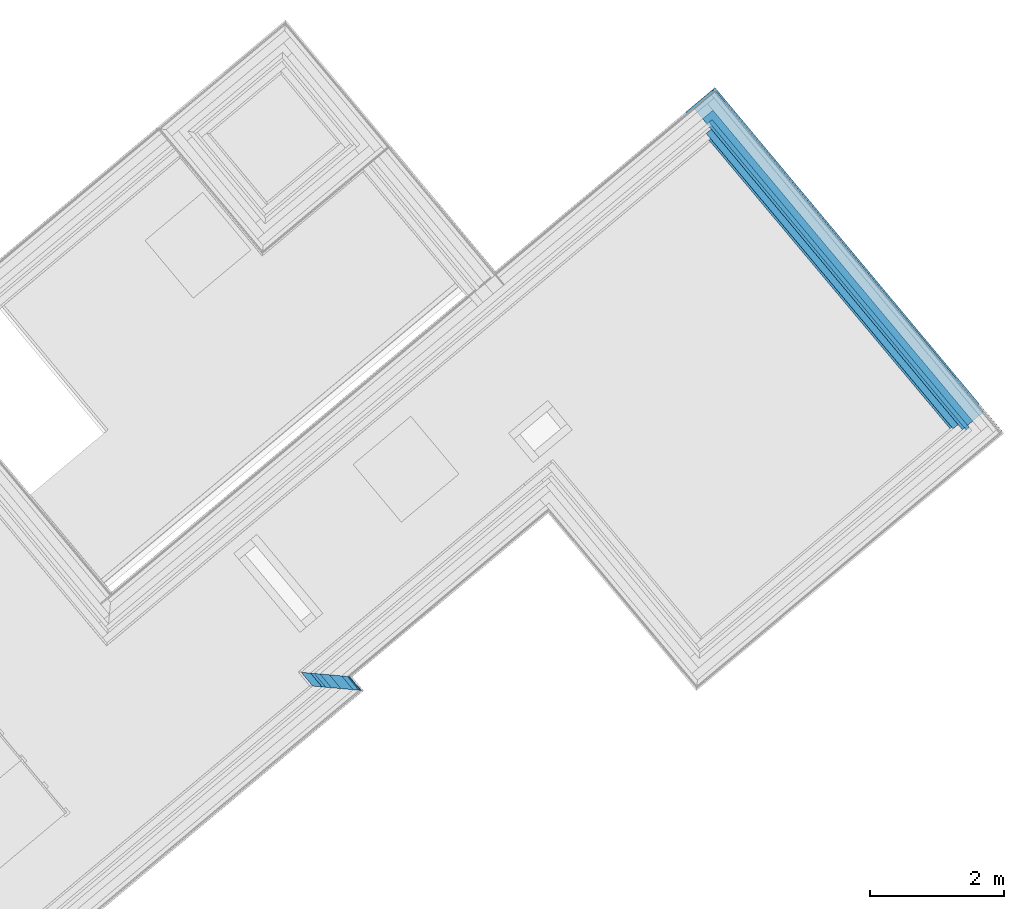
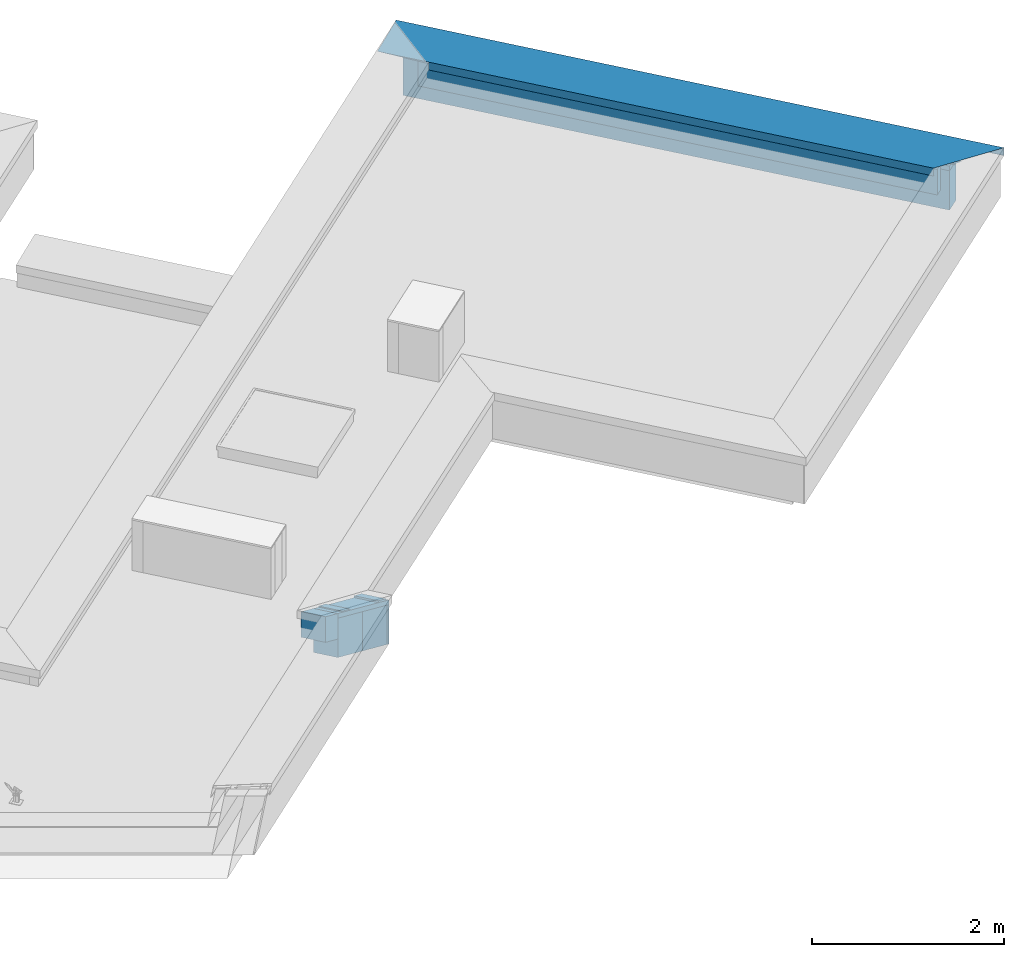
# One storey, part 14 of 15: 13 building element parts, 2 elements without a shape of their own.
"""IFC4 building model written with IfcOpenShell, lengths in metres."""

from ifc_helpers import new_model, entity, si_unit, converted_unit, derived_unit, direction, frame, origin_with_axes, place, context, subcontext, project, spatial, polygons, material, type_object, element, aggregate, save


model = new_model("IFC4")

# Units and contexts
model_context = context("Model", 3, precision=1e-05, world=origin_with_axes(), true_north=direction((0.0, 1.0)))
body_context = subcontext(model_context, "Body", "Model", "MODEL_VIEW")
ifc_project = project(units=[si_unit("LENGTHUNIT", "METRE"), si_unit("AREAUNIT", "SQUARE_METRE"), si_unit("VOLUMEUNIT", "CUBIC_METRE"), converted_unit("PLANEANGLEUNIT", "DEGREE", entity("IfcPlaneAngleMeasure", 0.0174532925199), si_unit("PLANEANGLEUNIT", "RADIAN"), dimensions=[0, 0, 0, 0, 0, 0, 0]), converted_unit("TIMEUNIT", "Year", entity("IfcTimeMeasure", 31556926.0), si_unit("TIMEUNIT", "SECOND"), dimensions=[0, 0, 1, 0, 0, 0, 0]), si_unit("MASSUNIT", "GRAM", prefix="KILO"), si_unit("THERMODYNAMICTEMPERATUREUNIT", "DEGREE_CELSIUS"), si_unit("LUMINOUSINTENSITYUNIT", "LUMEN"), si_unit("ENERGYUNIT", "JOULE", prefix="MEGA"), derived_unit("THERMALCONDUCTANCEUNIT", [(si_unit("POWERUNIT", "WATT"), 1), (si_unit("LENGTHUNIT", "METRE"), -1), (si_unit("THERMODYNAMICTEMPERATUREUNIT", "KELVIN"), -1)]), derived_unit("SPECIFICHEATCAPACITYUNIT", [(si_unit("ENERGYUNIT", "JOULE"), 1), (si_unit("MASSUNIT", "GRAM", prefix="KILO"), -1), (si_unit("THERMODYNAMICTEMPERATUREUNIT", "KELVIN"), -1)]), derived_unit("MASSDENSITYUNIT", [(si_unit("MASSUNIT", "GRAM", prefix="KILO"), 1), (si_unit("VOLUMEUNIT", "CUBIC_METRE"), -1)])], contexts=[model_context])

# Site, building, storey
site_placement = place(None, frame((-0.00153261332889, -0.00661245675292, 0.0), z_axis=(0.0, 0.0, 1.0), x_axis=(1.0, 0.0, 0.0)))
site = spatial("IfcSite", under=ifc_project, at=site_placement, Name="Site", CompositionType="ELEMENT")
building_placement = place(site_placement, origin_with_axes())
building = spatial("IfcBuilding", under=site, at=building_placement, Name="Building", CompositionType="ELEMENT")
storey_placement = place(building_placement, frame((0.0, 0.0, 11.84), z_axis=(0.0, 0.0, 1.0), x_axis=(1.0, 0.0, 0.0)))
storey = spatial("IfcBuildingStorey", under=building, at=storey_placement, Name="DA", CompositionType="ELEMENT", Elevation=11.84)

# Wall, building element parts
wall_type = type_object("IfcWallType", Name="Individuelles Profil 574 x 610", PredefinedType="NOTDEFINED")
wall_1_placement = place(storey_placement, frame((2.48571839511, 17.6952214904, 0.0), z_axis=(0.0, 0.0, 1.0), x_axis=(-0.640621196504, 0.76785707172, 0.0)))
wall_1 = element("IfcWall", 1, at=wall_1_placement, inside=storey, type_object=wall_type, Name="Wand-004", PredefinedType="NOTDEFINED")
ifc_material_1 = material(Name="EPS 1")
building_element_part_1_placement = place(wall_1_placement, origin_with_axes())
building_element_part_1 = element("IfcBuildingElementPart", 2, at=building_element_part_1_placement, material=ifc_material_1, Name="EPS 1", PredefinedType="NOTDEFINED", context=body_context, shape_type="Tessellation", body=[
    polygons([(0.568969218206, 0.300000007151, 0.23500000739), (0.299575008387, 0.300000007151, 0.23500000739), (0.299575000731, 0.30000000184, 0.560000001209), (0.568969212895, 0.30000000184, 0.560000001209), (0.468969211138, 0.200000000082, 0.23500000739), (0.19971666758, 0.200000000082, 0.23500000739), (0.19971666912, 0.200000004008, 0.560000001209), (0.468969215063, 0.200000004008, 0.560000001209)], [[[1, 2, 3, 4]], [[2, 1, 5, 6]], [[7, 3, 2, 6]], [[8, 4, 3, 7]], [[4, 8, 5, 1]], [[5, 8, 7, 6]]], closed=True),
])
ifc_material_2 = material(Name="Vollholz")
building_element_part_2_placement = place(wall_1_placement, origin_with_axes())
building_element_part_2 = element("IfcBuildingElementPart", 3, at=building_element_part_2_placement, material=ifc_material_2, Name="Vollholz", PredefinedType="NOTDEFINED", context=body_context, shape_type="Tessellation", body=[
    polygons([(0.368969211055, 0.1, 0.560000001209), (0.368969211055, 0.1, 0.575979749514), (0.0998583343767, 0.1, 0.575979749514), (0.0998583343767, 0.1, 0.560000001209), (0.429079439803, 0.160110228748, 0.573880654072), (0.428969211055, 0.16, 0.560000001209), (0.159883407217, 0.160110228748, 0.573880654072), (0.159773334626, 0.16, 0.560000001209)], [[[1, 2, 3, 4]], [[5, 2, 1, 6]], [[2, 5, 7, 3]], [[4, 3, 7, 8]], [[6, 1, 4, 8]], [[5, 6, 8, 7]]], closed=True),
])
ifc_material_3 = material(Name="Stahlbeton Wand Garage")
building_element_part_3_placement = place(wall_1_placement, origin_with_axes())
building_element_part_3 = element("IfcBuildingElementPart", 4, at=building_element_part_3_placement, material=ifc_material_3, Name="Stahlbeton Wand Garage", PredefinedType="NOTDEFINED", context=body_context, shape_type="Tessellation", body=[
    polygons([(0.268969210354, -7.0115113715e-10, 0.0), (0.268969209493, -1.56214596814e-09, 0.500000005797), (-1.90311411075e-09, -2.53464271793e-09, 0.500000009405), (-7.83380471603e-10, -1.08753894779e-09, 0.0), (0.468969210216, 0.199999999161, 0.500000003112), (0.468969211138, 0.200000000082, 0.0), (0.468969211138, 0.200000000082, 0.23500000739), (0.199716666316, 0.199999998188, 0.500000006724), (0.19971666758, 0.200000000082, 0.0), (0.19971666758, 0.200000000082, 0.23500000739)], [[[1, 2, 3, 4]], [[5, 2, 1, 6, 7]], [[2, 5, 8, 3]], [[9, 4, 3, 8, 10]], [[6, 1, 4, 9]], [[7, 6, 9, 10]], [[5, 7, 10, 8]]], closed=True),
])
ifc_material_4 = material(Name="Brettschichtholz")
building_element_part_4_placement = place(wall_1_placement, origin_with_axes())
building_element_part_4 = element("IfcBuildingElementPart", 5, at=building_element_part_4_placement, material=ifc_material_4, Name="Brettschichtholz", PredefinedType="NOTDEFINED", context=body_context, shape_type="Tessellation", body=[
    polygons([(0.19971666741, 0.200000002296, 0.560000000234), (0.159773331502, 0.159999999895, 0.560000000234), (0.42896921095, 0.159999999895, 0.560000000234), (0.468969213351, 0.200000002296, 0.560000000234), (0.199716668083, 0.200000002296, 0.499999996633), (-0.214695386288, -0.214999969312, 0.50000001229), (-0.214695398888, -0.214999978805, 0.55999999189), (-0.189855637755, -0.190124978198, 0.560000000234), (-0.129940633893, -0.130124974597, 0.560000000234), (0.09985832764, 0.0999999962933, 0.560000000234), (0.368969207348, 0.0999999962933, 0.560000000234), (0.468969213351, 0.200000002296, 0.499999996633), (0.138844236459, -0.130124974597, 0.560000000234), (0.0788442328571, -0.190124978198, 0.560000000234), (0.0539692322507, -0.214999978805, 0.55999999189), (0.0539692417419, -0.214999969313, 0.50000001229)], [[[1, 2, 3, 4]], [[1, 5, 6, 7, 8, 9, 10, 2]], [[3, 2, 10, 11]], [[12, 4, 3, 11, 13, 14, 15, 16]], [[5, 1, 4, 12]], [[5, 12, 16, 6]], [[16, 15, 7, 6]], [[15, 14, 8, 7]], [[13, 9, 8, 14]], [[11, 10, 9, 13]]], closed=True),
])
building_element_part_5_placement = place(wall_1_placement, origin_with_axes())
building_element_part_5 = element("IfcBuildingElementPart", 6, at=building_element_part_5_placement, material=ifc_material_1, Name="EPS 1", PredefinedType="NOTDEFINED", context=body_context, shape_type="Tessellation", body=[
    polygons([(0.0689692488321, -0.199999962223, 0.0), (0.0689692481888, -0.199999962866, 0.500000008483), (-0.199716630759, -0.199999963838, 0.500000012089), (-0.199716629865, -0.19999996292, 0.0), (0.26896921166, 6.04444494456e-10, 0.500000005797), (0.268969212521, 1.46543932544e-09, 0.0), (2.60405030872e-10, -3.6805225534e-10, 0.500000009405), (1.38014222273e-09, 1.07904973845e-09, 0.0)], [[[1, 2, 3, 4]], [[5, 2, 1, 6]], [[2, 5, 7, 3]], [[4, 3, 7, 8]], [[6, 1, 4, 8]], [[5, 6, 8, 7]]], closed=True),
])
building_element_part_6_placement = place(wall_1_placement, origin_with_axes())
building_element_part_6 = element("IfcBuildingElementPart", 7, at=building_element_part_6_placement, material=ifc_material_2, Name="Vollholz", PredefinedType="NOTDEFINED", context=body_context, shape_type="Tessellation", body=[
    polygons([(0.138844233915, -0.130124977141, 0.560000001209), (0.0788442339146, -0.190124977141, 0.560000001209), (-0.189855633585, -0.190124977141, 0.560000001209), (-0.129940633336, -0.130124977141, 0.560000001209), (0.0789843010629, -0.189984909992, 0.586106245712), (0.138844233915, -0.130124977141, 0.584015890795), (-0.189715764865, -0.189984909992, 0.586106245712), (-0.129940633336, -0.130124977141, 0.584015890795)], [[[1, 2, 3, 4]], [[5, 2, 1, 6]], [[2, 5, 7, 3]], [[4, 3, 7, 8]], [[6, 1, 4, 8]], [[5, 6, 8, 7]]], closed=True),
])
ifc_material_5 = material(Name="Zementputz")
building_element_part_7_placement = place(wall_1_placement, origin_with_axes())
building_element_part_7 = element("IfcBuildingElementPart", 8, at=building_element_part_7_placement, material=ifc_material_5, Name="Zementputz", PredefinedType="NOTDEFINED", context=body_context, shape_type="Tessellation", body=[
    polygons([(0.0539692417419, -0.214999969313, 0.0), (0.0539692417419, -0.214999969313, 0.50000001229), (-0.214695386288, -0.214999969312, 0.50000001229), (-0.214695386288, -0.214999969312, 0.0), (0.0689692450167, -0.199999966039, 0.500000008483), (0.06896924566, -0.199999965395, 0.0), (-0.199716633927, -0.19999996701, 0.500000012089), (-0.199716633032, -0.199999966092, 0.0)], [[[1, 2, 3, 4]], [[5, 2, 1, 6]], [[2, 5, 7, 3]], [[4, 3, 7, 8]], [[6, 1, 4, 8]], [[5, 6, 8, 7]]], closed=True),
])
aggregate(wall_1, [building_element_part_1, building_element_part_2, building_element_part_3, building_element_part_4, building_element_part_5, building_element_part_6, building_element_part_7])

wall_2_placement = place(storey_placement, frame((8.04940660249, 26.3441297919, 0.0), z_axis=(0.0, 0.0, 1.0), x_axis=(0.641209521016, -0.767365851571, 0.0)))
wall_2 = element("IfcWall", 9, at=wall_2_placement, inside=storey, type_object=wall_type, Name="Wand-004", PredefinedType="NOTDEFINED")
building_element_part_8_placement = place(wall_2_placement, origin_with_axes())
building_element_part_8 = element("IfcBuildingElementPart", 10, at=building_element_part_8_placement, material=ifc_material_4, Name="Brettschichtholz", PredefinedType="NOTDEFINED", context=body_context, shape_type="Tessellation", body=[
    polygons([(-0.199999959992, 0.214999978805, 0.519224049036), (-0.199999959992, 0.214999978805, 0.559999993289), (6.05741327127, 0.214999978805, 0.560000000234), (6.05741327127, 0.214999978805, 0.519224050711), (6.05741327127, 0.214999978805, 0.51136132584), (6.05741327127, 0.214999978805, 0.509050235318), (6.05741327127, 0.214999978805, 0.499999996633), (-0.199999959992, 0.214999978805, 0.5), (-0.199999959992, 0.214999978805, 0.509050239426), (-0.199999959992, 0.214999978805, 0.511361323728), (-0.199999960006, 0.190124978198, 0.559999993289), (-0.199999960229, -0.200000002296, 0.519224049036), (-0.199999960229, -0.200000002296, 0.559999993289), (-0.199999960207, -0.159999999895, 0.559999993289), (-0.199999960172, -0.0999999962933, 0.559999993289), (-0.199999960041, 0.130124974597, 0.559999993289), (6.05742947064, 0.190124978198, 0.560000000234), (6.05746854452, 0.130124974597, 0.560000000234), (6.05761840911, -0.0999999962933, 0.560000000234), (6.05765748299, -0.159999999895, 0.560000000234), (6.05768353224, -0.200000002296, 0.560000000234), (6.05768353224, -0.200000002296, 0.519224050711), (6.05768353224, -0.200000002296, 0.51136132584), (6.05768353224, -0.200000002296, 0.509050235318), (6.05768353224, -0.200000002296, 0.499999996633), (-0.199999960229, -0.200000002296, 0.5), (-0.199999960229, -0.200000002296, 0.509050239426), (-0.199999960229, -0.200000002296, 0.511361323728)], [[[1, 2, 3, 4, 5, 6, 7, 8, 9, 10]], [[11, 2, 1, 12, 13, 14, 15, 16]], [[2, 11, 17, 3]], [[4, 3, 17, 18, 19, 20, 21, 22]], [[4, 22, 23, 5]], [[5, 23, 24, 6]], [[6, 24, 25, 7]], [[26, 8, 7, 25]], [[27, 9, 8, 26]], [[28, 10, 9, 27]], [[12, 1, 10, 28]], [[13, 12, 28, 27, 26, 25, 24, 23, 22, 21]], [[14, 13, 21, 20]], [[15, 14, 20, 19]], [[16, 15, 19, 18]], [[11, 16, 18, 17]]], closed=True),
])
building_element_part_9_placement = place(wall_2_placement, origin_with_axes())
building_element_part_9 = element("IfcBuildingElementPart", 11, at=building_element_part_9_placement, material=ifc_material_3, Name="Stahlbeton Wand Garage", PredefinedType="NOTDEFINED", context=body_context, shape_type="Tessellation", body=[
    polygons([(1.27252164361e-09, 0.0, 0.498822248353), (1.27252164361e-09, 0.0, 0.5), (6.05755328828, 0.0, 0.5), (6.05755328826, 0.0, 0.498822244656), (6.05755328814, 0.0, 0.491006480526), (6.0575532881, 0.0, 0.488695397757), (6.05755328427, 0.0, 0.235000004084), (6.05755328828, 0.0, 0.0), (1.27252164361e-09, 0.0, 0.0), (1.27252164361e-09, 0.0, 0.235000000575), (1.27252164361e-09, 0.0, 0.488695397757), (1.27252164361e-09, 0.0, 0.491006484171), (1.15820597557e-09, -0.2, 0.5), (1.15820597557e-09, -0.2, 0.498822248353), (6.05768353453, -0.2, 0.5), (6.05768353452, -0.2, 0.498822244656), (6.0576835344, -0.2, 0.491006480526), (6.05768353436, -0.2, 0.488695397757), (6.05768353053, -0.200000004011, 0.235000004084), (6.05768353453, -0.2, 0.0), (1.15820952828e-09, -0.2, 0.0), (1.15820775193e-09, -0.200000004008, 0.235000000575), (1.15820597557e-09, -0.2, 0.488695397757), (1.15820597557e-09, -0.2, 0.491006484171)], [[[1, 2, 3, 4, 5, 6, 7, 8, 9, 10, 11, 12]], [[13, 2, 1, 14]], [[2, 13, 15, 3]], [[4, 3, 15, 16]], [[4, 16, 17, 5]], [[5, 17, 18, 6]], [[6, 18, 19, 7]], [[7, 19, 20, 8]], [[21, 9, 8, 20]], [[22, 10, 9, 21]], [[23, 11, 10, 22]], [[24, 12, 11, 23]], [[14, 1, 12, 24]], [[13, 14, 24, 23, 22, 19, 18, 17, 16, 15]], [[22, 21, 20, 19]]], closed=True),
])
building_element_part_10_placement = place(wall_2_placement, origin_with_axes())
building_element_part_10 = element("IfcBuildingElementPart", 12, at=building_element_part_10_placement, material=ifc_material_2, Name="Vollholz", PredefinedType="NOTDEFINED", context=body_context, shape_type="Tessellation", body=[
    polygons([(0.0999999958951, -0.1, 0.573880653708), (0.0999998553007, -0.1, 0.575979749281), (6.15761843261, -0.100000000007, 0.575979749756), (6.09750819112, -0.1, 0.573880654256), (6.09755530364, -0.1, 0.567947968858), (6.09761841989, -0.1, 0.560000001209), (0.0999999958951, -0.1, 0.560000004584), (0.0999999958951, -0.1, 0.567947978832), (0.0999999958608, -0.160110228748, 0.573880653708), (6.09754733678, -0.160110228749, 0.573880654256), (6.09759441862, -0.160063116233, 0.567947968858), (6.09765749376, -0.16, 0.560000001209), (0.0999999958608, -0.16, 0.560000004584), (0.0999999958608, -0.160063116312, 0.567947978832)], [[[1, 2, 3, 4, 5, 6, 7, 8]], [[9, 2, 1]], [[2, 9, 10, 3]], [[4, 3, 10]], [[4, 10, 11, 5]], [[5, 11, 12, 6]], [[13, 7, 6, 12]], [[14, 8, 7, 13]], [[9, 1, 8, 14]], [[9, 14, 13, 12, 11, 10]]], closed=True),
])
building_element_part_11_placement = place(wall_2_placement, origin_with_axes())
building_element_part_11 = element("IfcBuildingElementPart", 13, at=building_element_part_11_placement, material=ifc_material_1, Name="EPS 1", PredefinedType="NOTDEFINED", context=body_context, shape_type="Tessellation", body=[
    polygons([(0.200000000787, -0.200000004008, 0.519224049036), (0.200000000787, -0.200000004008, 0.559999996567), (5.95768351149, -0.200000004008, 0.560000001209), (5.95768351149, -0.200000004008, 0.519224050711), (5.95768351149, -0.200000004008, 0.51136132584), (5.95768351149, -0.200000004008, 0.509050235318), (5.95768351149, -0.200000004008, 0.499999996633), (5.95768351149, -0.200000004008, 0.498822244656), (5.95768351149, -0.200000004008, 0.491006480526), (5.95768351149, -0.200000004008, 0.488695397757), (5.95768351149, -0.200000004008, 0.235000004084), (0.200000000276, -0.200000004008, 0.235000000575), (0.199999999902, -0.200000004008, 0.488695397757), (0.199999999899, -0.200000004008, 0.491006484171), (0.199999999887, -0.200000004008, 0.498822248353), (0.200000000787, -0.200000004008, 0.500000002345), (0.200000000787, -0.200000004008, 0.509050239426), (0.200000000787, -0.200000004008, 0.511361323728), (0.20000000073, -0.30000000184, 0.559999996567), (0.20000000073, -0.30000000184, 0.519224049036), (5.95774863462, -0.30000000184, 0.560000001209), (5.95774863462, -0.30000000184, 0.519224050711), (5.95774863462, -0.30000000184, 0.51136132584), (5.95774863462, -0.30000000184, 0.509050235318), (5.95774863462, -0.30000000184, 0.499999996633), (5.95774863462, -0.30000000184, 0.498822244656), (5.95774863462, -0.30000000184, 0.491006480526), (5.95774863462, -0.30000000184, 0.488695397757), (5.95774863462, -0.30000000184, 0.235000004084), (0.200000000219, -0.30000000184, 0.235000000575), (0.199999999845, -0.30000000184, 0.488695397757), (0.199999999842, -0.30000000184, 0.491006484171), (0.19999999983, -0.30000000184, 0.498822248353), (0.20000000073, -0.30000000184, 0.500000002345), (0.20000000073, -0.30000000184, 0.509050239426), (0.20000000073, -0.30000000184, 0.511361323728)], [[[1, 2, 3, 4, 5, 6, 7, 8, 9, 10, 11, 12, 13, 14, 15, 16, 17, 18]], [[19, 2, 1, 20]], [[2, 19, 21, 3]], [[4, 3, 21, 22]], [[4, 22, 23, 5]], [[5, 23, 24, 6]], [[6, 24, 25, 7]], [[7, 25, 26, 8]], [[8, 26, 27, 9]], [[9, 27, 28, 10]], [[10, 28, 29, 11]], [[30, 12, 11, 29]], [[31, 13, 12, 30]], [[32, 14, 13, 31]], [[33, 15, 14, 32]], [[34, 16, 15, 33]], [[35, 17, 16, 34]], [[36, 18, 17, 35]], [[20, 1, 18, 36]], [[19, 20, 36, 35, 34, 33, 32, 31, 30, 29, 28, 27, 26, 25, 24, 23, 22, 21]]], closed=True),
])
ifc_material_6 = material(Name="Holzwerkstoff")
building_element_part_12_placement = place(wall_2_placement, origin_with_axes())
building_element_part_12 = element("IfcBuildingElementPart", 14, at=building_element_part_12_placement, material=ifc_material_6, Name="Holzwerkstoff", PredefinedType="NOTDEFINED", context=body_context, shape_type="Tessellation", body=[
    polygons([(0.329999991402, -0.329999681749, 0.567947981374), (0.160110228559, -0.330207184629, 0.573880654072), (0.16011022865, -0.160110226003, 0.573880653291), (5.9277682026, -0.329999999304, 0.567947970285), (5.92756111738, -0.330207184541, 0.573880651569), (5.92748785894, -0.33028049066, 0.57597974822), (5.92720739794, -0.330561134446, 0.584015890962), (5.9271344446, -0.330634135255, 0.586106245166), (5.92707053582, -0.330698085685, 0.587937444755), (-0.239997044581, -0.330698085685, 0.587937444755), (-0.24000000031, -0.33069512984, 0.587852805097), (-0.189984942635, -0.330634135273, 0.586106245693), (-0.13012498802, -0.330561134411, 0.584015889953), (0.0999998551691, -0.330280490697, 0.575979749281), (0.0999998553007, -0.100000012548, 0.575979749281), (5.92745034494, -0.160110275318, 0.573880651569), (5.9273378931, -0.100000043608, 0.575979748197), (5.92690738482, 0.130124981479, 0.584015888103), (5.92679540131, 0.189984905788, 0.586106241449), (5.92670183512, 0.239999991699, 0.587852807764), (5.9266988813, 0.23999703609, 0.587937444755), (-0.239997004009, -0.330665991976, 0.587938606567), (6.49667405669, 0.239276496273, 0.608570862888), (-0.239276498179, 0.239276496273, 0.608570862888), (-0.239997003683, 0.239996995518, 0.587938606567), (-0.23999999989, 0.239999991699, 0.587852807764), (-0.18998494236, 0.189984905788, 0.586106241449), (-0.130124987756, 0.130124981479, 0.584015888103)], [[[1, 2, 3]], [[2, 1, 4, 5, 6, 7, 8, 9, 10, 11, 12, 13, 14]], [[3, 2, 14, 15]], [[1, 3, 16, 4]], [[5, 4, 16]], [[6, 5, 16, 17]], [[7, 6, 17, 18]], [[8, 7, 18, 19]], [[9, 8, 19, 20, 21]], [[22, 10, 9, 23, 24]], [[11, 10, 22, 25, 26]], [[12, 11, 26, 27]], [[13, 12, 27, 28]], [[15, 14, 13, 28]], [[3, 15, 17, 16]], [[15, 28, 18, 17]], [[28, 27, 19, 18]], [[27, 26, 20, 19]], [[26, 25, 24, 23, 21, 20]], [[23, 9, 21]], [[25, 22, 24]]], closed=True),
])
ifc_material_7 = material(Name="Stahl")
building_element_part_13_placement = place(wall_2_placement, origin_with_axes())
building_element_part_13 = element("IfcBuildingElementPart", 15, at=building_element_part_13_placement, material=ifc_material_7, Name="Stahl", PredefinedType="NOTDEFINED", context=body_context, shape_type="Tessellation", body=[
    polygons([(0.330698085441, -0.330698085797, 0.491006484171), (0.33069808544, -0.332051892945, 0.491006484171), (0.330698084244, -0.332051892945, 0.49882224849), (0.330698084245, -0.330698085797, 0.49882224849), (0.328783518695, -0.330698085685, 0.491006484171), (0.328783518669, -0.332051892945, 0.491006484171), (0.330137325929, -0.332051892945, 0.489652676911), (5.92571760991, -0.332051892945, 0.489652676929), (5.92571760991, -0.332051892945, 0.491006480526), (5.92571760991, -0.332051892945, 0.498822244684), (5.92571760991, -0.332051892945, 0.499999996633), (5.92571760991, -0.332051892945, 0.509050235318), (5.92571760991, -0.332051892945, 0.51136132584), (5.92571760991, -0.332051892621, 0.519224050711), (5.92571760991, -0.332051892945, 0.55999999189), (5.92571760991, -0.332051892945, 0.567947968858), (5.92571760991, -0.332051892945, 0.573880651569), (5.92571760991, -0.332051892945, 0.575979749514), (5.92571760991, -0.332051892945, 0.584015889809), (5.92571760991, -0.332051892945, 0.586106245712), (5.92571760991, -0.332051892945, 0.587937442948), (5.92571769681, -0.332051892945, 0.58924311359), (0.294660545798, -0.332051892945, 0.58924311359), (0.330698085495, -0.332051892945, 0.587938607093), (0.330698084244, -0.332051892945, 0.586106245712), (0.330698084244, -0.332051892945, 0.584015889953), (0.330698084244, -0.332051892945, 0.575979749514), (0.330698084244, -0.332051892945, 0.573880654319), (0.330698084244, -0.332051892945, 0.567947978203), (0.330698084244, -0.332051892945, 0.559999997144), (0.330698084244, -0.332051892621, 0.519224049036), (0.330698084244, -0.332051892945, 0.511361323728), (0.330698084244, -0.332051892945, 0.509050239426), (0.330698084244, -0.332051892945, 0.5), (0.330698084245, -0.330698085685, 0.5), (0.330698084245, -0.330698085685, 0.509050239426), (0.330698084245, -0.330698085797, 0.511361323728), (0.330698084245, -0.330698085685, 0.519224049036), (0.330698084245, -0.330698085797, 0.559999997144), (0.330698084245, -0.330698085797, 0.567947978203), (0.330698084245, -0.330698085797, 0.573880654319), (0.330698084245, -0.330698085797, 0.575979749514), (0.330698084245, -0.330698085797, 0.584015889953), (0.330698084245, -0.330698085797, 0.586106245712), (0.330698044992, -0.330698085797, 0.587937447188), (5.92571672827, -0.330698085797, 0.587937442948), (5.92571672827, -0.330698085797, 0.586106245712), (5.92571672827, -0.330698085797, 0.584015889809), (5.92571672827, -0.330698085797, 0.575979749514), (5.92571672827, -0.330698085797, 0.573880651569), (5.92571672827, -0.330698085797, 0.567947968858), (5.92571672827, -0.330698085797, 0.55999999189), (5.92571672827, -0.330698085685, 0.519224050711), (5.92571672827, -0.330698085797, 0.51136132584), (5.92571672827, -0.330698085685, 0.509050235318), (5.92571672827, -0.330698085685, 0.499999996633), (5.92571672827, -0.330698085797, 0.498822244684), (5.92571672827, -0.330698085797, 0.491006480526), (5.92707053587, -0.330698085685, 0.491006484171), (5.93488120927, -0.32288233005, 0.498822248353), (0.322882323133, -0.32288233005, 0.498822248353), (0.321878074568, -0.323792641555, 0.497911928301), (0.328783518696, -0.328783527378, 0.491006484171), (0.331094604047, -0.331094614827, 0.488695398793), (5.92667426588, -0.331094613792, 0.488695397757), (5.92571636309, -0.33013733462, 0.489652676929), (5.92571548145, -0.32878353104, 0.491006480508), (5.92569324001, -0.294630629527, 0.589243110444), (-0.240152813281, 0.202752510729, 0.608603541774), (6.4592717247, 0.201849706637, 0.608570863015), (6.46015199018, 0.202730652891, 0.608602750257), (6.49889636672, 0.241500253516, 0.610006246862), (-0.241500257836, 0.241500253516, 0.610006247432), (-0.2415002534, 0.202730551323, 0.608602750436), (-0.240152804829, 0.24006611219, 0.608599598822), (-0.240152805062, 0.240152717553, 0.608602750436), (-0.239889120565, 0.239802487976, 0.608590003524), (-0.239493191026, 0.239276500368, 0.608570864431), (-0.239276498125, 0.239276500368, 0.608570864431), (0.330698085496, -0.330666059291, 0.587938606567), (6.45924735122, 0.239276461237, 0.608570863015), (5.92706928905, -0.328783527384, 0.491006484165), (5.93397024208, -0.321878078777, 0.497911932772), (0.321878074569, -0.321878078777, 0.497911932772), (6.45933218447, 0.239360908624, 0.608573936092), (6.4601276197, 0.240152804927, 0.608602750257), (6.4601267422, 0.241500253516, 0.608602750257), (-0.241500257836, 0.241500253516, 0.510007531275), (6.49754891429, 0.241500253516, 0.608602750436), (6.49754891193, 0.241500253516, 0.608570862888), (6.4975475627, 0.241500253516, 0.587937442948), (6.49754744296, 0.241500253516, 0.586106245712), (6.49754730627, 0.241500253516, 0.584015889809), (6.49754678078, 0.241500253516, 0.575979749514), (6.49754664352, 0.241500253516, 0.573880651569), (6.49754625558, 0.241500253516, 0.567947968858), (6.49754573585, 0.241500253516, 0.55999999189), (6.49754306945, 0.241500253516, 0.519224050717), (6.49754255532, 0.241500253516, 0.51136132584), (6.49562799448, 0.241500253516, 0.511361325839), (6.49698179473, 0.241500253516, 0.510007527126), (-0.241500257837, 0.239585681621, 0.510007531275), (-0.24150025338, 0.238231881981, 0.51136132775), (-0.241500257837, 0.240146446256, 0.51136132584), (-0.241500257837, 0.240152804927, 0.608602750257), (6.49754979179, 0.240152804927, 0.608602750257), (6.49754978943, 0.240152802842, 0.608570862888), (6.49754844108, 0.240151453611, 0.587937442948), (6.49754832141, 0.240151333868, 0.586106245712), (6.49754818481, 0.240151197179, 0.584015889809), (6.49754765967, 0.240150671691, 0.575979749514), (6.4975475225, 0.24015053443, 0.573880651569), (6.49754713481, 0.240150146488, 0.567947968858), (6.49754661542, 0.240149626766, 0.55999999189), (6.49754395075, 0.240146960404, 0.519224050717), (6.49754343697, 0.240146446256, 0.51136132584), (6.49562887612, 0.240146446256, 0.511361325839), (6.49563012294, 0.238231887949, 0.51136132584), (6.49793970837, 0.240542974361, 0.509050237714), (-0.240542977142, 0.240542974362, 0.509050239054), (-0.240146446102, 0.238231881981, 0.51136132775), (6.48877610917, 0.231373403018, 0.518219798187), (-0.233287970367, 0.231373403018, 0.518219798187), (-0.240146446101, 0.240146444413, 0.51136132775), (6.48877485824, 0.233287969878, 0.518219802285), (-0.232283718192, 0.232283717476, 0.519224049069), (6.48968583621, 0.232283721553, 0.51922405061)], [[[1, 2, 3, 4]], [[2, 1, 5, 6]], [[3, 2, 6, 7, 8, 9, 10, 11, 12, 13, 14, 15, 16, 17, 18, 19, 20, 21, 22, 23, 24, 25, 26, 27, 28, 29, 30, 31, 32, 33, 34]], [[4, 3, 34, 35]], [[1, 4, 35, 36, 37, 38, 39, 40, 41, 42, 43, 44, 45, 46, 47, 48, 49, 50, 51, 52, 53, 54, 55, 56, 57, 58]], [[5, 1, 58, 59, 60, 61, 62]], [[7, 6, 5, 63, 64]], [[7, 64, 65, 8]], [[9, 8, 66, 67, 58]], [[10, 9, 58, 57]], [[11, 10, 57, 56]], [[12, 11, 56, 55]], [[13, 12, 55, 54]], [[14, 13, 54, 53]], [[15, 14, 53, 52]], [[16, 15, 52, 51]], [[17, 16, 51, 50]], [[18, 17, 50, 49]], [[19, 18, 49, 48]], [[20, 19, 48, 47]], [[21, 20, 47, 46]], [[22, 21, 46, 68]], [[69, 23, 22, 70, 71, 72, 73, 74]], [[24, 23, 69, 75, 76, 77, 78, 79, 80, 45]], [[25, 24, 45, 44]], [[26, 25, 44, 43]], [[27, 26, 43, 42]], [[28, 27, 42, 41]], [[29, 28, 41, 40]], [[30, 29, 40, 39]], [[30, 39, 38, 31]], [[37, 32, 31, 38]], [[33, 32, 37, 36]], [[34, 33, 36, 35]], [[45, 80, 79, 81, 68, 46]], [[59, 58, 67, 82]], [[60, 59, 82, 83]], [[84, 61, 60, 83]], [[84, 62, 61]], [[63, 5, 62, 84]], [[64, 63, 84, 83, 82, 67, 66, 65]], [[8, 65, 66]], [[81, 70, 22, 68]], [[71, 70, 81, 85, 86]], [[72, 71, 86, 87]], [[88, 73, 72, 87, 89, 90, 91, 92, 93, 94, 95, 96, 97, 98, 99, 100, 101]], [[102, 103, 104, 105, 74, 73, 88]], [[69, 74, 105, 75]], [[75, 105, 76]], [[79, 78, 77, 76, 86, 85, 81]], [[106, 89, 87, 86]], [[106, 107, 90, 89]], [[108, 91, 90, 107]], [[108, 109, 92, 91]], [[109, 110, 93, 92]], [[110, 111, 94, 93]], [[111, 112, 95, 94]], [[112, 113, 96, 95]], [[113, 114, 97, 96]], [[114, 115, 98, 97]], [[115, 116, 99, 98]], [[116, 117, 100, 99]], [[118, 119, 101, 100, 117]], [[120, 88, 101, 119]], [[121, 103, 102, 120, 119, 118, 122, 123]], [[103, 121, 124, 104]], [[104, 124, 117, 116, 115, 114, 113, 112, 111, 110, 109, 108, 107, 106, 86, 76, 105]], [[120, 102, 88]], [[118, 117, 125, 122]], [[126, 123, 122, 127]], [[121, 123, 126, 124]], [[124, 126, 127, 125, 117]], [[127, 122, 125]]], closed=True),
])
aggregate(wall_2, [building_element_part_8, building_element_part_9, building_element_part_10, building_element_part_11, building_element_part_12, building_element_part_13])

save(model, "model.ifc")
